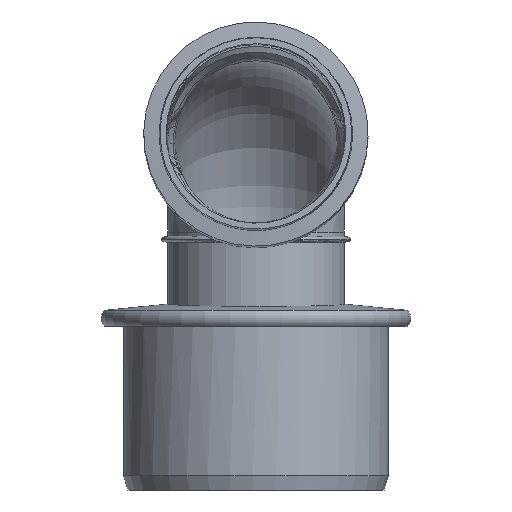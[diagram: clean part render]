
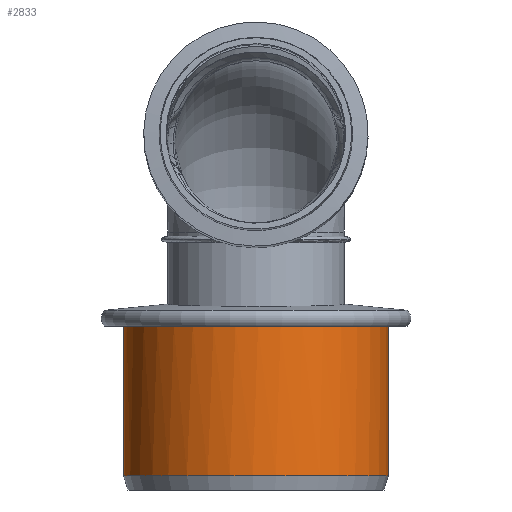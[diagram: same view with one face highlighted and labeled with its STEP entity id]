
A CAD part, left-side view. The second image highlights one B-rep face of the part: STEP entity #2833.
In plain terms, the highlighted cylindrical face has radius 37.6 mm (diameter 75.2 mm), a full revolution.
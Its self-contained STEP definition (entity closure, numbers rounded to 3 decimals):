
#163=LINE('',#15386,#200);
#200=VECTOR('',#3634,37.6);
#212=CYLINDRICAL_SURFACE('',#3101,37.6);
#403=FACE_OUTER_BOUND('',#566,.T.);
#566=EDGE_LOOP('',(#2471,#2472,#2473,#2474,#2475,#2476));
#736=CIRCLE('',#3095,37.6);
#739=CIRCLE('',#3099,37.6);
#740=CIRCLE('',#3100,37.6);
#919=B_SPLINE_CURVE_WITH_KNOTS('',3,(#15371,#15372,#15373,#15374,#15375,
#15376,#15377,#15378,#15379,#15380,#15381,#15382,#15383,#15384),
 .UNSPECIFIED.,.F.,.F.,(4,2,2,2,2,2,4),(-0.51,-0.481,
-0.451,-0.388,-0.254,-0.155,
0.),.UNSPECIFIED.);
#1201=VERTEX_POINT('',#15180);
#1204=VERTEX_POINT('',#15188);
#1205=VERTEX_POINT('',#15189);
#1206=VERTEX_POINT('',#15224);
#1623=EDGE_CURVE('',#1201,#1201,#736,.T.);
#1628=EDGE_CURVE('',#1205,#1206,#739,.T.);
#1629=EDGE_CURVE('',#1206,#1204,#740,.T.);
#1630=EDGE_CURVE('',#1204,#1205,#919,.T.);
#1631=EDGE_CURVE('',#1206,#1201,#163,.T.);
#2471=ORIENTED_EDGE('',*,*,#1628,.F.);
#2472=ORIENTED_EDGE('',*,*,#1630,.F.);
#2473=ORIENTED_EDGE('',*,*,#1629,.F.);
#2474=ORIENTED_EDGE('',*,*,#1631,.T.);
#2475=ORIENTED_EDGE('',*,*,#1623,.T.);
#2476=ORIENTED_EDGE('',*,*,#1631,.F.);
#2833=ADVANCED_FACE('',(#403),#212,.T.);
#3095=AXIS2_PLACEMENT_3D('',#15181,#3619,#3620);
#3099=AXIS2_PLACEMENT_3D('',#15225,#3628,#3629);
#3100=AXIS2_PLACEMENT_3D('',#15226,#3630,#3631);
#3101=AXIS2_PLACEMENT_3D('',#15385,#3632,#3633);
#3619=DIRECTION('center_axis',(0.,0.,1.));
#3620=DIRECTION('ref_axis',(-0.479,0.878,0.));
#3628=DIRECTION('center_axis',(0.,0.,1.));
#3629=DIRECTION('ref_axis',(-0.479,0.878,0.));
#3630=DIRECTION('center_axis',(0.,0.,1.));
#3631=DIRECTION('ref_axis',(-0.479,0.878,0.));
#3632=DIRECTION('center_axis',(0.,0.,1.));
#3633=DIRECTION('ref_axis',(-0.479,0.878,0.));
#3634=DIRECTION('',(0.,0.,-1.));
#15180=CARTESIAN_POINT('',(18.026,-32.997,-41.));
#15181=CARTESIAN_POINT('Origin',(0.,0.,-41.));
#15188=CARTESIAN_POINT('',(-2.565,37.512,1.5));
#15189=CARTESIAN_POINT('',(-8.115,36.714,1.5));
#15224=CARTESIAN_POINT('',(18.026,-32.997,1.5));
#15225=CARTESIAN_POINT('Origin',(0.,0.,1.5));
#15226=CARTESIAN_POINT('Origin',(0.,0.,1.5));
#15371=CARTESIAN_POINT('Ctrl Pts',(-2.565,37.512,1.5));
#15372=CARTESIAN_POINT('Ctrl Pts',(-2.623,37.508,1.579));
#15373=CARTESIAN_POINT('Ctrl Pts',(-2.692,37.504,1.651));
#15374=CARTESIAN_POINT('Ctrl Pts',(-2.844,37.492,1.78));
#15375=CARTESIAN_POINT('Ctrl Pts',(-2.93,37.486,1.839));
#15376=CARTESIAN_POINT('Ctrl Pts',(-3.207,37.464,2.001));
#15377=CARTESIAN_POINT('Ctrl Pts',(-3.417,37.445,2.084));
#15378=CARTESIAN_POINT('Ctrl Pts',(-4.069,37.382,2.275));
#15379=CARTESIAN_POINT('Ctrl Pts',(-4.598,37.322,2.335));
#15380=CARTESIAN_POINT('Ctrl Pts',(-5.599,37.183,2.299));
#15381=CARTESIAN_POINT('Ctrl Pts',(-6.031,37.116,2.24));
#15382=CARTESIAN_POINT('Ctrl Pts',(-7.095,36.93,1.999));
#15383=CARTESIAN_POINT('Ctrl Pts',(-7.682,36.81,1.768));
#15384=CARTESIAN_POINT('Ctrl Pts',(-8.115,36.714,1.5));
#15385=CARTESIAN_POINT('Origin',(0.,0.,7.4));
#15386=CARTESIAN_POINT('',(18.026,-32.997,7.4));
